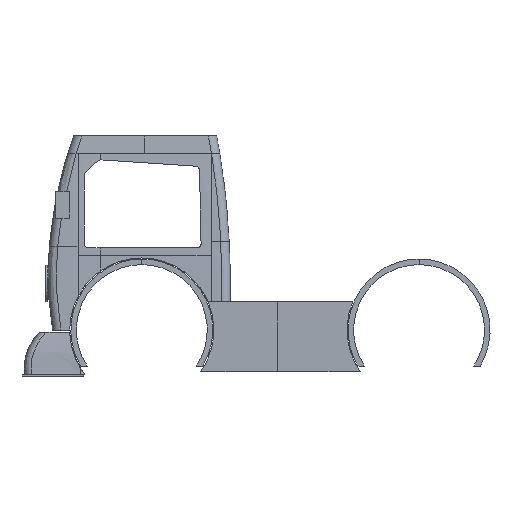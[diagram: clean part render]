
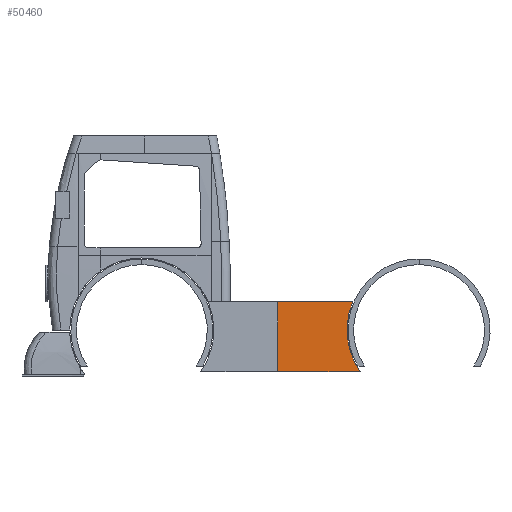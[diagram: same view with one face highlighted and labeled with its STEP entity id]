
A CAD part, front view. The second image highlights one B-rep face of the part: STEP entity #50460.
In plain terms, the highlighted planar face has unit normal (0, -1, 0).
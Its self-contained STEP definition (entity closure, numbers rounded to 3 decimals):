
#50222 = PLANE('',#50223);
#50223 = AXIS2_PLACEMENT_3D('',#50224,#50225,#50226);
#50224 = CARTESIAN_POINT('',(285.,-190.,25.));
#50225 = DIRECTION('',(-0.,0.,1.));
#50226 = DIRECTION('',(1.,0.,0.));
#50247 = VERTEX_POINT('',#50248);
#50248 = CARTESIAN_POINT('',(430.,-194.,25.));
#50262 = PLANE('',#50263);
#50263 = AXIS2_PLACEMENT_3D('',#50264,#50265,#50266);
#50264 = CARTESIAN_POINT('',(430.,-210.,0.));
#50265 = DIRECTION('',(1.,0.,-0.));
#50266 = DIRECTION('',(0.,0.,1.));
#50274 = EDGE_CURVE('',#50247,#50275,#50277,.T.);
#50275 = VERTEX_POINT('',#50276);
#50276 = CARTESIAN_POINT('',(578.816,-194.,25.));
#50277 = SURFACE_CURVE('',#50278,(#50282,#50289),.PCURVE_S1.);
#50278 = LINE('',#50279,#50280);
#50279 = CARTESIAN_POINT('',(285.,-194.,25.));
#50280 = VECTOR('',#50281,1.);
#50281 = DIRECTION('',(1.,0.,0.));
#50282 = PCURVE('',#50222,#50283);
#50283 = DEFINITIONAL_REPRESENTATION('',(#50284),#50288);
#50284 = LINE('',#50285,#50286);
#50285 = CARTESIAN_POINT('',(0.,-4.));
#50286 = VECTOR('',#50287,1.);
#50287 = DIRECTION('',(1.,0.));
#50288 = ( GEOMETRIC_REPRESENTATION_CONTEXT(2) 
PARAMETRIC_REPRESENTATION_CONTEXT() REPRESENTATION_CONTEXT('2D SPACE',''
  ) );
#50289 = PCURVE('',#50290,#50295);
#50290 = PLANE('',#50291);
#50291 = AXIS2_PLACEMENT_3D('',#50292,#50293,#50294);
#50292 = CARTESIAN_POINT('',(465.091,-194.,87.829));
#50293 = DIRECTION('',(-0.,-1.,-0.));
#50294 = DIRECTION('',(0.,0.,-1.));
#50295 = DEFINITIONAL_REPRESENTATION('',(#50296),#50300);
#50296 = LINE('',#50297,#50298);
#50297 = CARTESIAN_POINT('',(62.829,-180.091));
#50298 = VECTOR('',#50299,1.);
#50299 = DIRECTION('',(0.,1.));
#50300 = ( GEOMETRIC_REPRESENTATION_CONTEXT(2) 
PARAMETRIC_REPRESENTATION_CONTEXT() REPRESENTATION_CONTEXT('2D SPACE',''
  ) );
#50316 = CYLINDRICAL_SURFACE('',#50317,130.);
#50317 = AXIS2_PLACEMENT_3D('',#50318,#50319,#50320);
#50318 = CARTESIAN_POINT('',(685.,-240.,100.));
#50319 = DIRECTION('',(0.,1.,0.));
#50320 = DIRECTION('',(0.,-0.,1.));
#50374 = PLANE('',#50375);
#50375 = AXIS2_PLACEMENT_3D('',#50376,#50377,#50378);
#50376 = CARTESIAN_POINT('',(622.,-190.,151.));
#50377 = DIRECTION('',(-0.,-0.,-1.));
#50378 = DIRECTION('',(-1.,0.,0.));
#50412 = EDGE_CURVE('',#50275,#50413,#50415,.T.);
#50413 = VERTEX_POINT('',#50414);
#50414 = CARTESIAN_POINT('',(565.422,-194.,151.));
#50415 = SURFACE_CURVE('',#50416,(#50421,#50428),.PCURVE_S1.);
#50416 = CIRCLE('',#50417,130.);
#50417 = AXIS2_PLACEMENT_3D('',#50418,#50419,#50420);
#50418 = CARTESIAN_POINT('',(685.,-194.,100.));
#50419 = DIRECTION('',(0.,1.,0.));
#50420 = DIRECTION('',(0.,-0.,1.));
#50421 = PCURVE('',#50316,#50422);
#50422 = DEFINITIONAL_REPRESENTATION('',(#50423),#50427);
#50423 = LINE('',#50424,#50425);
#50424 = CARTESIAN_POINT('',(0.,46.));
#50425 = VECTOR('',#50426,1.);
#50426 = DIRECTION('',(1.,0.));
#50427 = ( GEOMETRIC_REPRESENTATION_CONTEXT(2) 
PARAMETRIC_REPRESENTATION_CONTEXT() REPRESENTATION_CONTEXT('2D SPACE',''
  ) );
#50428 = PCURVE('',#50290,#50429);
#50429 = DEFINITIONAL_REPRESENTATION('',(#50430),#50438);
#50430 = ( BOUNDED_CURVE() B_SPLINE_CURVE(2,(#50431,#50432,#50433,#50434
    ,#50435,#50436,#50437),.UNSPECIFIED.,.T.,.F.) 
B_SPLINE_CURVE_WITH_KNOTS((1,2,2,2,2,1),(-2.094,0.,
    2.094,4.189,6.283,8.378),
.UNSPECIFIED.) CURVE() GEOMETRIC_REPRESENTATION_ITEM() 
RATIONAL_B_SPLINE_CURVE((1.,0.5,1.,0.5,1.,0.5,1.)) REPRESENTATION_ITEM(
  '') );
#50431 = CARTESIAN_POINT('',(-142.171,219.909));
#50432 = CARTESIAN_POINT('',(-142.171,445.075));
#50433 = CARTESIAN_POINT('',(52.829,332.492));
#50434 = CARTESIAN_POINT('',(247.829,219.909));
#50435 = CARTESIAN_POINT('',(52.829,107.325));
#50436 = CARTESIAN_POINT('',(-142.171,-5.258));
#50437 = CARTESIAN_POINT('',(-142.171,219.909));
#50438 = ( GEOMETRIC_REPRESENTATION_CONTEXT(2) 
PARAMETRIC_REPRESENTATION_CONTEXT() REPRESENTATION_CONTEXT('2D SPACE',''
  ) );
#50460 = ADVANCED_FACE('',(#50461),#50290,.T.);
#50461 = FACE_BOUND('',#50462,.T.);
#50462 = EDGE_LOOP('',(#50463,#50464,#50487,#50508));
#50463 = ORIENTED_EDGE('',*,*,#50412,.T.);
#50464 = ORIENTED_EDGE('',*,*,#50465,.T.);
#50465 = EDGE_CURVE('',#50413,#50466,#50468,.T.);
#50466 = VERTEX_POINT('',#50467);
#50467 = CARTESIAN_POINT('',(430.,-194.,151.));
#50468 = SURFACE_CURVE('',#50469,(#50473,#50480),.PCURVE_S1.);
#50469 = LINE('',#50470,#50471);
#50470 = CARTESIAN_POINT('',(622.,-194.,151.));
#50471 = VECTOR('',#50472,1.);
#50472 = DIRECTION('',(-1.,0.,0.));
#50473 = PCURVE('',#50290,#50474);
#50474 = DEFINITIONAL_REPRESENTATION('',(#50475),#50479);
#50475 = LINE('',#50476,#50477);
#50476 = CARTESIAN_POINT('',(-63.171,156.909));
#50477 = VECTOR('',#50478,1.);
#50478 = DIRECTION('',(0.,-1.));
#50479 = ( GEOMETRIC_REPRESENTATION_CONTEXT(2) 
PARAMETRIC_REPRESENTATION_CONTEXT() REPRESENTATION_CONTEXT('2D SPACE',''
  ) );
#50480 = PCURVE('',#50374,#50481);
#50481 = DEFINITIONAL_REPRESENTATION('',(#50482),#50486);
#50482 = LINE('',#50483,#50484);
#50483 = CARTESIAN_POINT('',(0.,-4.));
#50484 = VECTOR('',#50485,1.);
#50485 = DIRECTION('',(1.,0.));
#50486 = ( GEOMETRIC_REPRESENTATION_CONTEXT(2) 
PARAMETRIC_REPRESENTATION_CONTEXT() REPRESENTATION_CONTEXT('2D SPACE',''
  ) );
#50487 = ORIENTED_EDGE('',*,*,#50488,.F.);
#50488 = EDGE_CURVE('',#50247,#50466,#50489,.T.);
#50489 = SURFACE_CURVE('',#50490,(#50494,#50501),.PCURVE_S1.);
#50490 = LINE('',#50491,#50492);
#50491 = CARTESIAN_POINT('',(430.,-194.,43.915));
#50492 = VECTOR('',#50493,1.);
#50493 = DIRECTION('',(0.,-0.,1.));
#50494 = PCURVE('',#50290,#50495);
#50495 = DEFINITIONAL_REPRESENTATION('',(#50496),#50500);
#50496 = LINE('',#50497,#50498);
#50497 = CARTESIAN_POINT('',(43.915,-35.091));
#50498 = VECTOR('',#50499,1.);
#50499 = DIRECTION('',(-1.,0.));
#50500 = ( GEOMETRIC_REPRESENTATION_CONTEXT(2) 
PARAMETRIC_REPRESENTATION_CONTEXT() REPRESENTATION_CONTEXT('2D SPACE',''
  ) );
#50501 = PCURVE('',#50262,#50502);
#50502 = DEFINITIONAL_REPRESENTATION('',(#50503),#50507);
#50503 = LINE('',#50504,#50505);
#50504 = CARTESIAN_POINT('',(43.915,-16.));
#50505 = VECTOR('',#50506,1.);
#50506 = DIRECTION('',(1.,0.));
#50507 = ( GEOMETRIC_REPRESENTATION_CONTEXT(2) 
PARAMETRIC_REPRESENTATION_CONTEXT() REPRESENTATION_CONTEXT('2D SPACE',''
  ) );
#50508 = ORIENTED_EDGE('',*,*,#50274,.T.);
